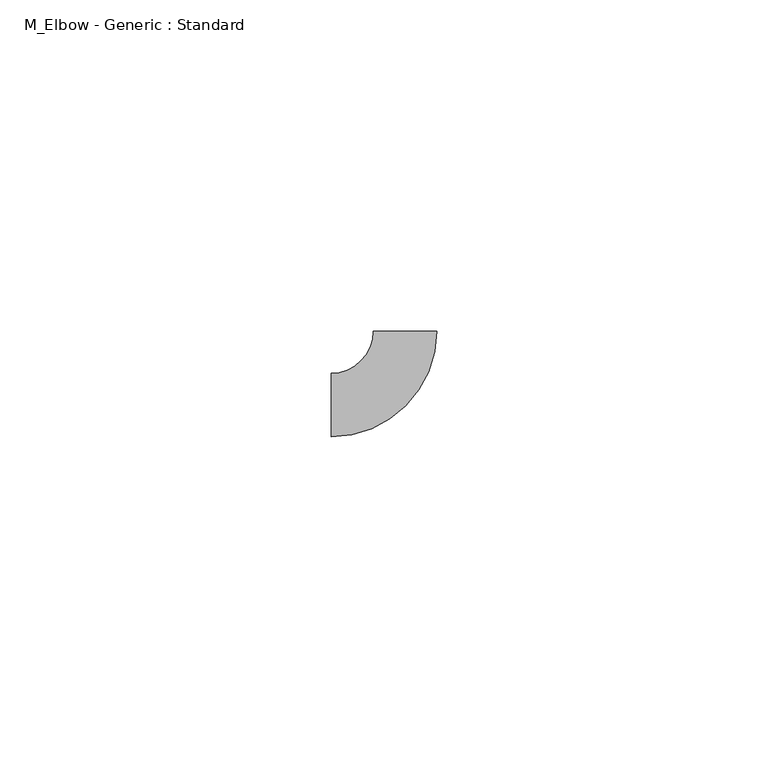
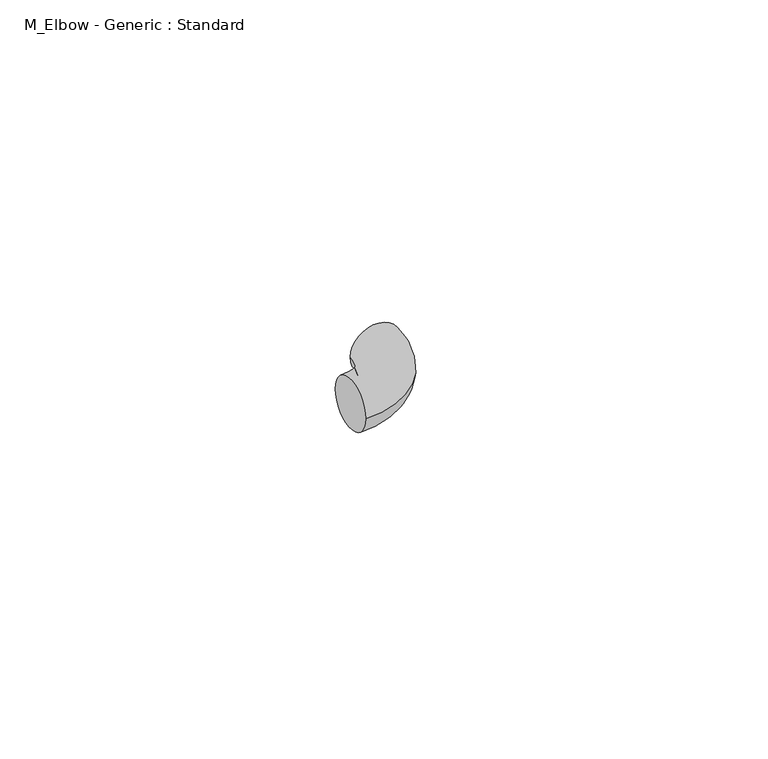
"""IFC4 building model written with IfcOpenShell, lengths in millimetres: pipe fitting geometry, M_Elbow - Generic : Standard."""

from ifc_helpers import new_model, si_unit, point, frame, origin, place, context, project, spatial, circle_curve, ellipse_curve, trimmed, source, transform, mapped, element, save
from ifc_brep_helpers import plane_surface, revolved_surface, advanced_brep


def m_elbow_generic_standard_5542be81(model_context):
    return source(origin(), model_context, "Body", "AdvancedBrep", [
        advanced_brep(
        [(-11.1372742, -4.7875, 0.0), (-11.1372742, 4.7875, 0.0), (4.7877258, 11.1371772, 0.0), (-4.7872742, 11.1373713, 0.0)],
        [
            (0, 1, circle_curve(frame((-11.1372742, 0.0, 0.0), z_axis=(-1.0, 0.0, 0.0), x_axis=(0.0, 1.0, 0.0)), 4.7875)),
            (1, 0, circle_curve(frame((-11.1372742, 0.0, 0.0), z_axis=(-1.0, 0.0, 0.0), x_axis=(0.0, 1.0, 0.0)), 4.7875)),
            (2, 3, circle_curve(frame((0.0002258, 11.1372742, 0.0), z_axis=(2.0272723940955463e-05, 0.9999999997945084, 0.0), x_axis=(-0.9999999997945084, 2.0272723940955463e-05, 0.0)), 4.7875)),
            (3, 2, circle_curve(frame((0.0002258, 11.1372742, 0.0), z_axis=(2.0272723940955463e-05, 0.9999999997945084, 0.0), x_axis=(-0.9999999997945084, 2.0272723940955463e-05, 0.0)), 4.7875)),
            (3, 1, circle_curve(frame((-11.1372742, 11.1375, 0.0), z_axis=(0.0, 0.0, -1.0), x_axis=(0.0, -1.0, 0.0)), 6.35)),
            (0, 2, circle_curve(frame((-11.1372742, 11.1375, 0.0), z_axis=(0.0, 0.0, 1.0), x_axis=(0.0, -1.0, 0.0)), 15.925)),
        ],
        [
            plane_surface(frame((-11.1372742, 0.0, 0.0), z_axis=(-1.0, 0.0, 0.0), x_axis=(0.0, 0.0, 1.0))),
            plane_surface(frame((0.0002258, 11.1372742, 0.0), z_axis=(2.0272723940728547e-05, 0.9999999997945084, 0.0), x_axis=(0.0, 0.0, 1.0))),
            revolved_surface(trimmed(ellipse_curve(frame((-11.1372742, 0.0, 0.0), z_axis=(-1.0, 0.0, 0.0), x_axis=(0.0, 1.0, 0.0)), 4.7875, 4.7875), [point((-11.1372742, -4.7875, 0.0))], [point((-11.1372742, 4.7875, 0.0))], True, "CARTESIAN"), (-11.1372742, 11.1375, 0.0), (0.0, 0.0, 1.0)),
            revolved_surface(trimmed(ellipse_curve(frame((-11.1372742, 0.0, 0.0), z_axis=(-1.0, 0.0, 0.0), x_axis=(0.0, 1.0, 0.0)), 4.7875, 4.7875), [point((-11.1372742, 4.7875, 0.0))], [point((-11.1372742, -4.7875, 0.0))], True, "CARTESIAN"), (-11.1372742, 11.1375, 0.0), (0.0, 0.0, 1.0)),
        ],
        [
            (0, [[1, 2]]),
            (1, [[3, 4]]),
            (2, [[5, -1, 6, -4]]),
            (3, [[-6, -2, -5, -3]]),
        ],
    ),
    ])


if __name__ == "__main__":
    model = new_model("IFC4")
    model_context = context("Model", 3, world=origin())
    ifc_project = project(units=[si_unit("LENGTHUNIT", "METRE", prefix="MILLI")], contexts=[model_context])
    site = spatial("IfcSite", under=ifc_project)
    building = spatial("IfcBuilding", under=site)
    placement = place(None, origin())
    m_elbow_generic_standard_shape = m_elbow_generic_standard_5542be81(model_context)
    element("IfcPipeFitting", 1, ObjectType="M_Elbow - Generic : Standard", at=placement, inside=building, context=model_context, shape_type="MappedRepresentation", body=[
        mapped(m_elbow_generic_standard_shape, transform((0.0, 0.0, 0.0), x_axis=(1.0, 0.0, 0.0), y_axis=(0.0, 1.0, 0.0), z_axis=(0.0, 0.0, 1.0))),
    ])
    save(model, "model.ifc")
